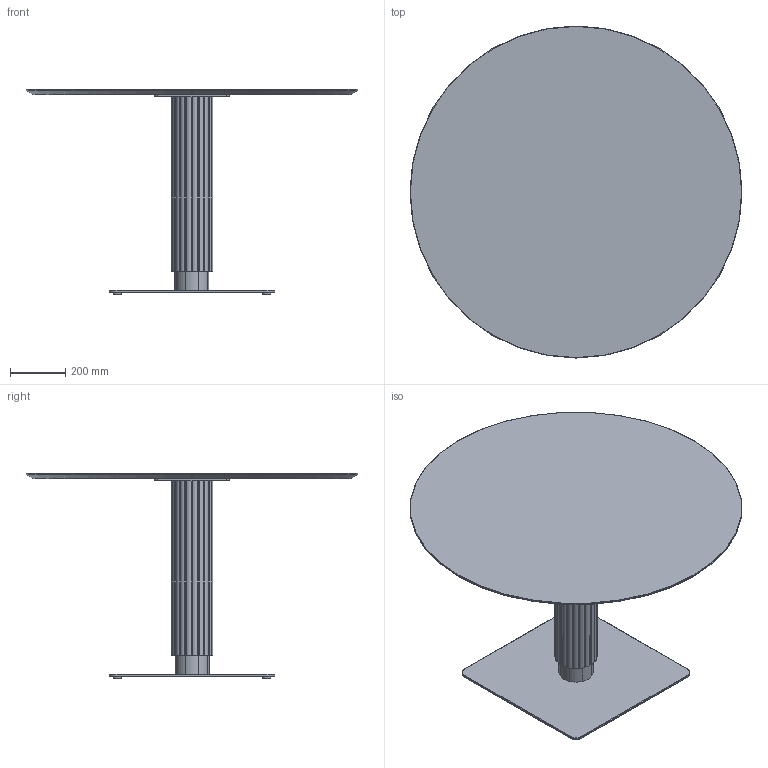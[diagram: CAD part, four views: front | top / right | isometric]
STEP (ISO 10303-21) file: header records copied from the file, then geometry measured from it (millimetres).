
FILE_DESCRIPTION( ('This file contains a STEP AP42 implementation' ,'as created by ZW3D STEP Interface translator.') ,'2;1' );
FILE_NAME( 'Godron - B_Carré - F1 - M5 - 1200 x 1200 x 750.stp' ,'24 912. 95339', (''), ('ZWCAD Software Co.'), 'Version 1.0', 'ZW3D to STEP translator', '' );
FILE_SCHEMA(('AUTOMOTIVE_DESIGN { 1 0 10303 214 1 1 1 1 }'));
Length unit declared in the file: millimetre
Products named in the file (15): 0; PIED BISTROT PARAMETRIQUE_; CROIX ACIER 370 V.02_; CRX-X370-02_; SOCLE ACIER L 600x600 V.02_; SCL-R600-02_; PLA-R30A-01_; PLA-R30A-01; COLONNE ACIER Ø48.5 V.02_; TUB-D048-02_; PLA-R48A-01_; Colonne GODRON H700_; WUERTH 0276063020 Euro-screw 6.3x2 Verzinkt_; PLATEAU BISTROT PARAMETRIQUE_; insert_m6_13_
Assembly tree (23 placements, depth 3):
  0
  PIED BISTROT PARAMETRIQUE_
    CROIX ACIER 370 V.02_
      CRX-X370-02_
    SOCLE ACIER L 600x600 V.02_
      SCL-R600-02_
      PLA-R30A-01_
      PLA-R30A-01  x3
    COLONNE ACIER Ø48.5 V.02_
      TUB-D048-02_
      PLA-R48A-01_  x2
    Colonne GODRON H700_
    WUERTH 0276063020 Euro-screw 6.3x2 Verzinkt_
    PLATEAU BISTROT PARAMETRIQUE_
      insert_m6_13_  x8
Bounding box: 1200 x 1200 x 744 mm (x, y, z)
Volume: 35830465 mm3; surface area: 4444601.3 mm2
Topology: 27 solids, 27 shells, 669 faces, 1662 edges, 1062 vertices
Faces by surface type: plane 302, cylinder 192, bspline 125, cone 49, torus 1
Full cylindrical faces by diameter (mm): 4.88 x1, 6 x8, 6.3 x1, 8 x45, 12 x2, 14 x2, 30 x4, 44.5 x3, 48.5 x1
Entity records: 16818 total; most frequent: CARTESIAN_POINT 4157, ORIENTED_EDGE 2338, DIRECTION 2336, EDGE_CURVE 1169, AXIS2_PLACEMENT_3D 825, VERTEX_POINT 756, VECTOR 686, LINE 686
